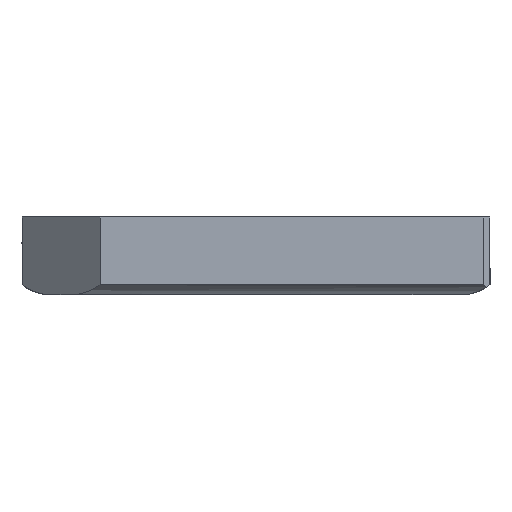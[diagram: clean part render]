
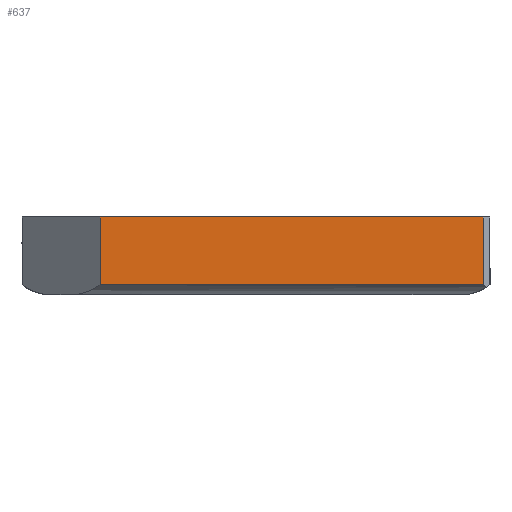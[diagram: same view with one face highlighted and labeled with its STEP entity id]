
A CAD part, left-side view. The second image highlights one B-rep face of the part: STEP entity #637.
In plain terms, the highlighted planar face has unit normal (-1, 0, 0).
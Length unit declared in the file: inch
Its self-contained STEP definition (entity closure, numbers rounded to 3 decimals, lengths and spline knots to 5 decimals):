
#30 = PLANE ( 'NONE',  #639 ) ;
#66 = DIRECTION ( 'NONE',  ( 0., 1., 0. ) ) ;
#80 = LINE ( 'NONE', #1217, #916 ) ;
#83 = DIRECTION ( 'NONE',  ( 0., 0., 1. ) ) ;
#93 = DIRECTION ( 'NONE',  ( 1., 0., 0. ) ) ;
#96 = DIRECTION ( 'NONE',  ( 0., 0., -1. ) ) ;
#98 = VECTOR ( 'NONE', #96, 39.37008 ) ;
#101 = CARTESIAN_POINT ( 'NONE',  ( 0., -0.118, 0.118 ) ) ;
#131 = LINE ( 'NONE', #101, #98 ) ;
#154 = DIRECTION ( 'NONE',  ( 0., -1., 0. ) ) ;
#250 = FACE_OUTER_BOUND ( 'NONE', #1388, .T. ) ;
#253 = CARTESIAN_POINT ( 'NONE',  ( 0., 0., 0.118 ) ) ;
#290 = ORIENTED_EDGE ( 'NONE', *, *, #339, .T. ) ;
#310 = VECTOR ( 'NONE', #154, 39.37008 ) ;
#333 = DIRECTION ( 'NONE',  ( 0., -1., 0. ) ) ;
#339 = EDGE_CURVE ( 'NONE', #831, #1040, #80, .T. ) ;
#396 = ORIENTED_EDGE ( 'NONE', *, *, #1291, .F. ) ;
#404 = EDGE_CURVE ( 'NONE', #1187, #767, #131, .T. ) ;
#480 = CARTESIAN_POINT ( 'NONE',  ( 0., 0., 0.01515 ) ) ;
#564 = LINE ( 'NONE', #253, #310 ) ;
#637 = ADVANCED_FACE ( 'NONE', ( #250 ), #30, .F. ) ;
#639 = AXIS2_PLACEMENT_3D ( 'NONE', #1448, #93, #66 ) ;
#707 = CARTESIAN_POINT ( 'NONE',  ( 0., -0.698, 0.01515 ) ) ;
#714 = ORIENTED_EDGE ( 'NONE', *, *, #1117, .T. ) ;
#718 = CARTESIAN_POINT ( 'NONE',  ( 0., -0.118, 0.118 ) ) ;
#767 = VERTEX_POINT ( 'NONE', #1228 ) ;
#831 = VERTEX_POINT ( 'NONE', #707 ) ;
#892 = CARTESIAN_POINT ( 'NONE',  ( 0., -0.698, 0.118 ) ) ;
#916 = VECTOR ( 'NONE', #83, 39.37008 ) ;
#1040 = VERTEX_POINT ( 'NONE', #892 ) ;
#1117 = EDGE_CURVE ( 'NONE', #767, #831, #1460, .T. ) ;
#1187 = VERTEX_POINT ( 'NONE', #718 ) ;
#1198 = VECTOR ( 'NONE', #333, 39.37008 ) ;
#1217 = CARTESIAN_POINT ( 'NONE',  ( 0., -0.698, 0.118 ) ) ;
#1228 = CARTESIAN_POINT ( 'NONE',  ( 0., -0.118, 0.01515 ) ) ;
#1281 = ORIENTED_EDGE ( 'NONE', *, *, #404, .T. ) ;
#1291 = EDGE_CURVE ( 'NONE', #1187, #1040, #564, .T. ) ;
#1388 = EDGE_LOOP ( 'NONE', ( #714, #290, #396, #1281 ) ) ;
#1448 = CARTESIAN_POINT ( 'NONE',  ( 0., 0., 0.118 ) ) ;
#1460 = LINE ( 'NONE', #480, #1198 ) ;
